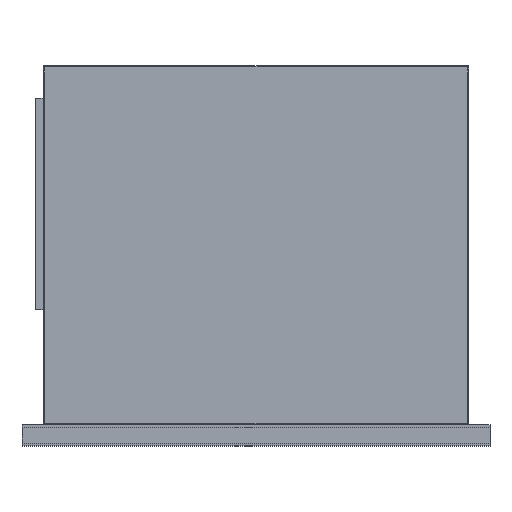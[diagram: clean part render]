
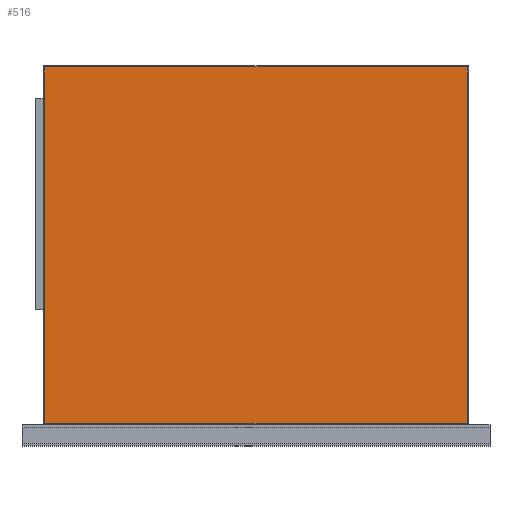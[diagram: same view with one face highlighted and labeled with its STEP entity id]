
A CAD part, top view. The second image highlights one B-rep face of the part: STEP entity #516.
In plain terms, the highlighted planar face has unit normal (0, 0, 1).
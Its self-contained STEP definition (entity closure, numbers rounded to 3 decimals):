
#516=ADVANCED_FACE('',(#1049),#1050,.F.);
#1049=FACE_OUTER_BOUND('',#1580,.T.);
#1050=PLANE('',#1581);
#1580=EDGE_LOOP('',(#3095,#3096,#3097,#3098));
#1581=AXIS2_PLACEMENT_3D('',#3099,#3100,#3101);
#3095=ORIENTED_EDGE('',*,*,#3698,.T.);
#3096=ORIENTED_EDGE('',*,*,#3738,.T.);
#3097=ORIENTED_EDGE('',*,*,#3720,.F.);
#3098=ORIENTED_EDGE('',*,*,#3745,.F.);
#3099=CARTESIAN_POINT('',(0.,0.0,450.0));
#3100=DIRECTION('',(0.,0.0,-1.0));
#3101=DIRECTION('',(-1.0,0.0,0.));
#3698=EDGE_CURVE('',#4560,#4564,#4566,.T.);
#3720=EDGE_CURVE('',#4598,#4592,#4600,.T.);
#3738=EDGE_CURVE('',#4564,#4592,#4620,.T.);
#3745=EDGE_CURVE('',#4560,#4598,#4627,.T.);
#4560=VERTEX_POINT('',#5714);
#4564=VERTEX_POINT('',#5718);
#4566=LINE('',#5720,#5721);
#4592=VERTEX_POINT('',#5750);
#4598=VERTEX_POINT('',#5757);
#4600=LINE('',#5759,#5760);
#4620=LINE('',#5784,#5785);
#4627=LINE('',#5795,#5796);
#5714=CARTESIAN_POINT('',(-795.0,-670.0,450.0));
#5718=CARTESIAN_POINT('',(795.0,-670.0,450.0));
#5720=CARTESIAN_POINT('',(0.,-670.0,450.0));
#5721=VECTOR('',#6473,1.0);
#5750=CARTESIAN_POINT('',(795.0,670.0,450.0));
#5757=CARTESIAN_POINT('',(-795.0,670.0,450.0));
#5759=CARTESIAN_POINT('',(0.,670.0,450.0));
#5760=VECTOR('',#6511,1.0);
#5784=CARTESIAN_POINT('',(795.0,0.,450.0));
#5785=VECTOR('',#6534,1.0);
#5795=CARTESIAN_POINT('',(-795.0,0.0,450.0));
#5796=VECTOR('',#6538,1.0);
#6473=DIRECTION('',(1.0,0.0,0.));
#6511=DIRECTION('',(1.0,0.0,0.));
#6534=DIRECTION('',(0.0,1.0,0.));
#6538=DIRECTION('',(0.,1.0,0.));
